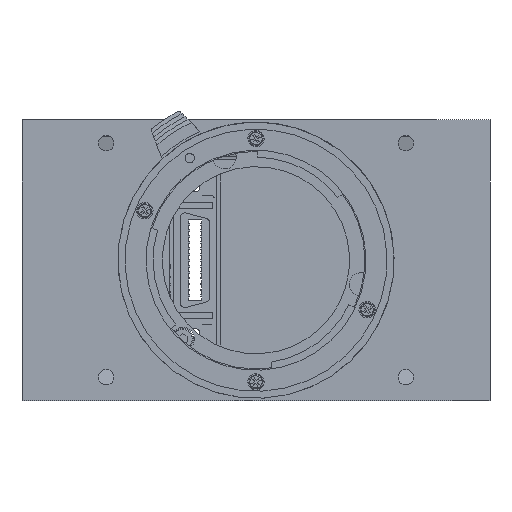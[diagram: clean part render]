
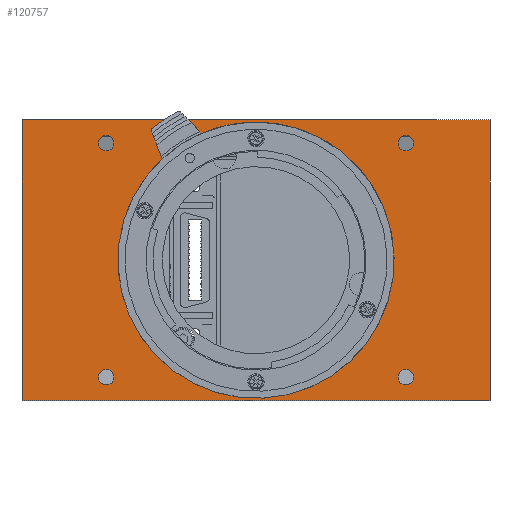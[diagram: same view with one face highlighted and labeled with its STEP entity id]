
A CAD part, left-side view. The second image highlights one B-rep face of the part: STEP entity #120757.
In plain terms, the highlighted planar face has unit normal (-1, 0, 0).
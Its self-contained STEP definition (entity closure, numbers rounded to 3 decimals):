
#2537 = AXIS2_PLACEMENT_3D ( 'NONE', #72628, #59855, #70843 ) ;
#6166 = EDGE_CURVE ( 'NONE', #62319, #155315, #105349, .T. ) ;
#7950 = CARTESIAN_POINT ( 'NONE',  ( 0., 32., 26.65 ) ) ;
#9668 = ORIENTED_EDGE ( 'NONE', *, *, #148362, .F. ) ;
#10122 = PLANE ( 'NONE',  #141373 ) ;
#12191 = EDGE_CURVE ( 'NONE', #126174, #126174, #116934, .T. ) ;
#12789 = FACE_BOUND ( 'NONE', #128504, .T. ) ;
#13317 = VERTEX_POINT ( 'NONE', #140507 ) ;
#14759 = EDGE_CURVE ( 'NONE', #20910, #62319, #92806, .T. ) ;
#20910 = VERTEX_POINT ( 'NONE', #21231 ) ;
#21231 = CARTESIAN_POINT ( 'NONE',  ( 0., -50., -30. ) ) ;
#24394 = ORIENTED_EDGE ( 'NONE', *, *, #156532, .F. ) ;
#24663 = CARTESIAN_POINT ( 'NONE',  ( 0., 0., 0. ) ) ;
#27115 = LINE ( 'NONE', #178946, #34969 ) ;
#27806 = DIRECTION ( 'NONE',  ( -1., 0., 0. ) ) ;
#29498 = EDGE_LOOP ( 'NONE', ( #24394 ) ) ;
#30708 = ORIENTED_EDGE ( 'NONE', *, *, #14759, .F. ) ;
#34969 = VECTOR ( 'NONE', #42574, 1000. ) ;
#38104 = DIRECTION ( 'NONE',  ( 0., 0., 1. ) ) ;
#38162 = EDGE_LOOP ( 'NONE', ( #60104 ) ) ;
#40593 = VERTEX_POINT ( 'NONE', #96038 ) ;
#42345 = CARTESIAN_POINT ( 'NONE',  ( 0., 32., -25. ) ) ;
#42574 = DIRECTION ( 'NONE',  ( 0., 0., -1. ) ) ;
#45841 = ORIENTED_EDGE ( 'NONE', *, *, #6166, .F. ) ;
#46048 = VECTOR ( 'NONE', #89036, 1000. ) ;
#46090 = ORIENTED_EDGE ( 'NONE', *, *, #118876, .F. ) ;
#47139 = EDGE_LOOP ( 'NONE', ( #146251, #45841, #30708, #9668 ) ) ;
#48102 = CARTESIAN_POINT ( 'NONE',  ( 0., 50., 30. ) ) ;
#48620 = DIRECTION ( 'NONE',  ( -1., 0., 0. ) ) ;
#51370 = DIRECTION ( 'NONE',  ( -1., 0., 0. ) ) ;
#52050 = EDGE_CURVE ( 'NONE', #129772, #129772, #121490, .T. ) ;
#55953 = DIRECTION ( 'NONE',  ( 0., 0., 1. ) ) ;
#56912 = AXIS2_PLACEMENT_3D ( 'NONE', #42345, #27806, #55953 ) ;
#58771 = EDGE_LOOP ( 'NONE', ( #117062 ) ) ;
#59855 = DIRECTION ( 'NONE',  ( -1., 0., 0. ) ) ;
#60104 = ORIENTED_EDGE ( 'NONE', *, *, #52050, .F. ) ;
#62319 = VERTEX_POINT ( 'NONE', #67767 ) ;
#64108 = DIRECTION ( 'NONE',  ( 0., 0., 1. ) ) ;
#66470 = FACE_BOUND ( 'NONE', #58771, .T. ) ;
#67767 = CARTESIAN_POINT ( 'NONE',  ( 0., 50., -30. ) ) ;
#68724 = CARTESIAN_POINT ( 'NONE',  ( 0., 50., 30. ) ) ;
#70151 = AXIS2_PLACEMENT_3D ( 'NONE', #156803, #48620, #73223 ) ;
#70843 = DIRECTION ( 'NONE',  ( 0., 0., 1. ) ) ;
#72628 = CARTESIAN_POINT ( 'NONE',  ( 0., 32., 25. ) ) ;
#73223 = DIRECTION ( 'NONE',  ( 0., 0., 1. ) ) ;
#75203 = VECTOR ( 'NONE', #123590, 1000. ) ;
#78147 = EDGE_CURVE ( 'NONE', #155315, #109032, #82324, .T. ) ;
#82006 = CIRCLE ( 'NONE', #174936, 1.65 ) ;
#82192 = CARTESIAN_POINT ( 'NONE',  ( 0., -32., -25. ) ) ;
#82324 = LINE ( 'NONE', #68724, #157845 ) ;
#89036 = DIRECTION ( 'NONE',  ( 0., 0., 1. ) ) ;
#92806 = LINE ( 'NONE', #162762, #75203 ) ;
#92863 = DIRECTION ( 'NONE',  ( 1., 0., 0. ) ) ;
#94651 = DIRECTION ( 'NONE',  ( 0., 0., -1. ) ) ;
#96038 = CARTESIAN_POINT ( 'NONE',  ( 0., -32., -23.35 ) ) ;
#96936 = CARTESIAN_POINT ( 'NONE',  ( 0., 32., -23.35 ) ) ;
#103618 = CARTESIAN_POINT ( 'NONE',  ( 0., -32., 25. ) ) ;
#105349 = LINE ( 'NONE', #48102, #46048 ) ;
#109032 = VERTEX_POINT ( 'NONE', #120371 ) ;
#110720 = AXIS2_PLACEMENT_3D ( 'NONE', #103618, #118986, #38104 ) ;
#112560 = CARTESIAN_POINT ( 'NONE',  ( 0., 0., 27.8 ) ) ;
#116934 = CIRCLE ( 'NONE', #70151, 27.8 ) ;
#117062 = ORIENTED_EDGE ( 'NONE', *, *, #135153, .F. ) ;
#118876 = EDGE_CURVE ( 'NONE', #149671, #149671, #175914, .T. ) ;
#118986 = DIRECTION ( 'NONE',  ( -1., 0., 0. ) ) ;
#120084 = FACE_BOUND ( 'NONE', #29498, .T. ) ;
#120371 = CARTESIAN_POINT ( 'NONE',  ( 0., -50., 30. ) ) ;
#120757 = ADVANCED_FACE ( 'NONE', ( #66470, #136429, #120084, #149167, #12789, #175568 ), #10122, .F. ) ;
#121490 = CIRCLE ( 'NONE', #2537, 1.65 ) ;
#123590 = DIRECTION ( 'NONE',  ( 0., 1., 0. ) ) ;
#126174 = VERTEX_POINT ( 'NONE', #112560 ) ;
#126854 = EDGE_LOOP ( 'NONE', ( #46090 ) ) ;
#128504 = EDGE_LOOP ( 'NONE', ( #174456 ) ) ;
#129772 = VERTEX_POINT ( 'NONE', #7950 ) ;
#135153 = EDGE_CURVE ( 'NONE', #13317, #13317, #174574, .T. ) ;
#136429 = FACE_BOUND ( 'NONE', #38162, .T. ) ;
#140507 = CARTESIAN_POINT ( 'NONE',  ( 0., -32., 26.65 ) ) ;
#141373 = AXIS2_PLACEMENT_3D ( 'NONE', #24663, #92863, #94651 ) ;
#145198 = CARTESIAN_POINT ( 'NONE',  ( 0., 50., 30. ) ) ;
#146251 = ORIENTED_EDGE ( 'NONE', *, *, #78147, .F. ) ;
#148362 = EDGE_CURVE ( 'NONE', #109032, #20910, #27115, .T. ) ;
#149167 = FACE_BOUND ( 'NONE', #126854, .T. ) ;
#149671 = VERTEX_POINT ( 'NONE', #96936 ) ;
#150511 = DIRECTION ( 'NONE',  ( 0., -1., 0. ) ) ;
#155315 = VERTEX_POINT ( 'NONE', #145198 ) ;
#156532 = EDGE_CURVE ( 'NONE', #40593, #40593, #82006, .T. ) ;
#156803 = CARTESIAN_POINT ( 'NONE',  ( 0., 0., 0. ) ) ;
#157845 = VECTOR ( 'NONE', #150511, 1000. ) ;
#162762 = CARTESIAN_POINT ( 'NONE',  ( 0., 50., -30. ) ) ;
#174456 = ORIENTED_EDGE ( 'NONE', *, *, #12191, .F. ) ;
#174574 = CIRCLE ( 'NONE', #110720, 1.65 ) ;
#174936 = AXIS2_PLACEMENT_3D ( 'NONE', #82192, #51370, #64108 ) ;
#175568 = FACE_OUTER_BOUND ( 'NONE', #47139, .T. ) ;
#175914 = CIRCLE ( 'NONE', #56912, 1.65 ) ;
#178946 = CARTESIAN_POINT ( 'NONE',  ( 0., -50., 30. ) ) ;
